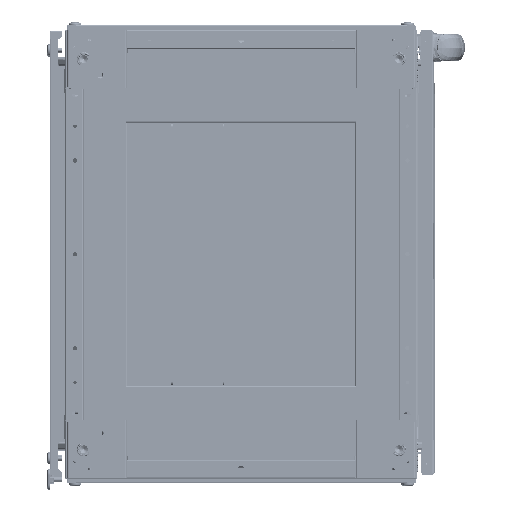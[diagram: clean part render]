
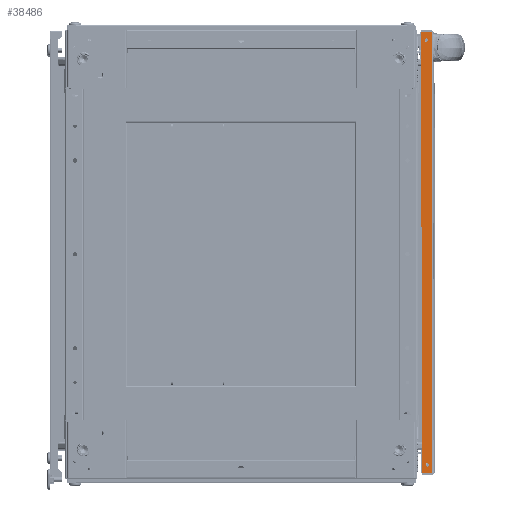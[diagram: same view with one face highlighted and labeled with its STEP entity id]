
A CAD part, front view. The second image highlights one B-rep face of the part: STEP entity #38486.
In plain terms, the highlighted planar face has unit normal (0, -1, 0) as drawn and (-1, 0, 0) by its records, which use the part's own axes.
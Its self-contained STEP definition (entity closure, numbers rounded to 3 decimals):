
#4591 = CARTESIAN_POINT ( 'NONE',  ( -2.01, 16., -588. ) ) ;
#16723 = CARTESIAN_POINT ( 'NONE',  ( -2.01, 9., -13.3 ) ) ;
#29332 = EDGE_CURVE ( 'NONE', #511736, #600153, #50153, .T. ) ;
#32001 = EDGE_CURVE ( 'NONE', #612338, #127141, #309851, .T. ) ;
#37428 = CARTESIAN_POINT ( 'NONE',  ( -2.01, 16., -588. ) ) ;
#38486 = ADVANCED_FACE ( 'NONE', ( #104358, #577943, #365489 ), #107777, .F. ) ;
#44756 = VERTEX_POINT ( 'NONE', #267050 ) ;
#46864 = VECTOR ( 'NONE', #321545, 1000. ) ;
#50153 = LINE ( 'NONE', #648657, #46864 ) ;
#81840 = CARTESIAN_POINT ( 'NONE',  ( -2.01, 16., -588. ) ) ;
#83524 = DIRECTION ( 'NONE',  ( 0., 0., -1. ) ) ;
#84610 = EDGE_CURVE ( 'NONE', #127141, #612338, #352646, .T. ) ;
#85398 = ORIENTED_EDGE ( 'NONE', *, *, #294491, .T. ) ;
#92614 = DIRECTION ( 'NONE',  ( 0., 0., -1. ) ) ;
#104358 = FACE_BOUND ( 'NONE', #200302, .T. ) ;
#107777 = PLANE ( 'NONE',  #300259 ) ;
#127141 = VERTEX_POINT ( 'NONE', #16723 ) ;
#129982 = CARTESIAN_POINT ( 'NONE',  ( -2.01, 2.01, 0. ) ) ;
#152913 = CIRCLE ( 'NONE', #385898, 2.3 ) ;
#153954 = ORIENTED_EDGE ( 'NONE', *, *, #32001, .T. ) ;
#159358 = LINE ( 'NONE', #483012, #332633 ) ;
#165383 = CARTESIAN_POINT ( 'NONE',  ( -2.01, 16., 0. ) ) ;
#167823 = CIRCLE ( 'NONE', #556990, 2.3 ) ;
#179914 = VERTEX_POINT ( 'NONE', #374462 ) ;
#185103 = VERTEX_POINT ( 'NONE', #81840 ) ;
#187471 = CARTESIAN_POINT ( 'NONE',  ( -2.01, 9., -11. ) ) ;
#191306 = ORIENTED_EDGE ( 'NONE', *, *, #335899, .T. ) ;
#196665 = AXIS2_PLACEMENT_3D ( 'NONE', #371585, #584020, #322775 ) ;
#199826 = ORIENTED_EDGE ( 'NONE', *, *, #84610, .T. ) ;
#200302 = EDGE_LOOP ( 'NONE', ( #191306, #85398 ) ) ;
#215009 = DIRECTION ( 'NONE',  ( 0., 0., -1. ) ) ;
#216945 = DIRECTION ( 'NONE',  ( 0., -1., 0. ) ) ;
#240301 = EDGE_CURVE ( 'NONE', #600153, #185103, #256592, .T. ) ;
#249921 = DIRECTION ( 'NONE',  ( 0., 0., -1. ) ) ;
#256592 = LINE ( 'NONE', #37428, #371073 ) ;
#267050 = CARTESIAN_POINT ( 'NONE',  ( -2.01, 2.01, -588. ) ) ;
#294491 = EDGE_CURVE ( 'NONE', #679441, #179914, #152913, .T. ) ;
#294683 = CARTESIAN_POINT ( 'NONE',  ( -2.01, 9., -577. ) ) ;
#300259 = AXIS2_PLACEMENT_3D ( 'NONE', #633586, #480295, #466572 ) ;
#309851 = CIRCLE ( 'NONE', #688016, 2.3 ) ;
#321545 = DIRECTION ( 'NONE',  ( 0., 1., 0. ) ) ;
#322775 = DIRECTION ( 'NONE',  ( 0., 0., -1. ) ) ;
#332633 = VECTOR ( 'NONE', #215009, 1000. ) ;
#335899 = EDGE_CURVE ( 'NONE', #179914, #679441, #167823, .T. ) ;
#352646 = CIRCLE ( 'NONE', #196665, 2.3 ) ;
#362036 = ORIENTED_EDGE ( 'NONE', *, *, #240301, .T. ) ;
#365489 = FACE_OUTER_BOUND ( 'NONE', #662044, .T. ) ;
#371073 = VECTOR ( 'NONE', #468989, 1000. ) ;
#371585 = CARTESIAN_POINT ( 'NONE',  ( -2.01, 9., -11. ) ) ;
#374462 = CARTESIAN_POINT ( 'NONE',  ( -2.01, 9., -579.3 ) ) ;
#377037 = LINE ( 'NONE', #4591, #605318 ) ;
#385898 = AXIS2_PLACEMENT_3D ( 'NONE', #497904, #508220, #83524 ) ;
#406614 = DIRECTION ( 'NONE',  ( 1., 0., 0. ) ) ;
#427388 = ORIENTED_EDGE ( 'NONE', *, *, #29332, .T. ) ;
#466572 = DIRECTION ( 'NONE',  ( 0., 1., 0. ) ) ;
#468989 = DIRECTION ( 'NONE',  ( 0., 0., -1. ) ) ;
#480295 = DIRECTION ( 'NONE',  ( 1., 0., 0. ) ) ;
#483012 = CARTESIAN_POINT ( 'NONE',  ( -2.01, 2.01, -588. ) ) ;
#497904 = CARTESIAN_POINT ( 'NONE',  ( -2.01, 9., -577. ) ) ;
#508220 = DIRECTION ( 'NONE',  ( 1., 0., 0. ) ) ;
#511736 = VERTEX_POINT ( 'NONE', #129982 ) ;
#520710 = CARTESIAN_POINT ( 'NONE',  ( -2.01, 9., -8.7 ) ) ;
#543178 = EDGE_CURVE ( 'NONE', #185103, #44756, #377037, .T. ) ;
#552871 = EDGE_LOOP ( 'NONE', ( #199826, #153954 ) ) ;
#556990 = AXIS2_PLACEMENT_3D ( 'NONE', #294683, #611563, #92614 ) ;
#557609 = EDGE_CURVE ( 'NONE', #511736, #44756, #159358, .T. ) ;
#577943 = FACE_BOUND ( 'NONE', #552871, .T. ) ;
#584020 = DIRECTION ( 'NONE',  ( 1., 0., 0. ) ) ;
#586836 = ORIENTED_EDGE ( 'NONE', *, *, #557609, .F. ) ;
#600153 = VERTEX_POINT ( 'NONE', #165383 ) ;
#604933 = ORIENTED_EDGE ( 'NONE', *, *, #543178, .T. ) ;
#605318 = VECTOR ( 'NONE', #216945, 1000. ) ;
#611563 = DIRECTION ( 'NONE',  ( 1., 0., 0. ) ) ;
#612338 = VERTEX_POINT ( 'NONE', #520710 ) ;
#633586 = CARTESIAN_POINT ( 'NONE',  ( -2.01, 16., -588. ) ) ;
#648657 = CARTESIAN_POINT ( 'NONE',  ( -2.01, 16., 0. ) ) ;
#662044 = EDGE_LOOP ( 'NONE', ( #586836, #427388, #362036, #604933 ) ) ;
#679441 = VERTEX_POINT ( 'NONE', #684101 ) ;
#684101 = CARTESIAN_POINT ( 'NONE',  ( -2.01, 9., -574.7 ) ) ;
#688016 = AXIS2_PLACEMENT_3D ( 'NONE', #187471, #406614, #249921 ) ;
